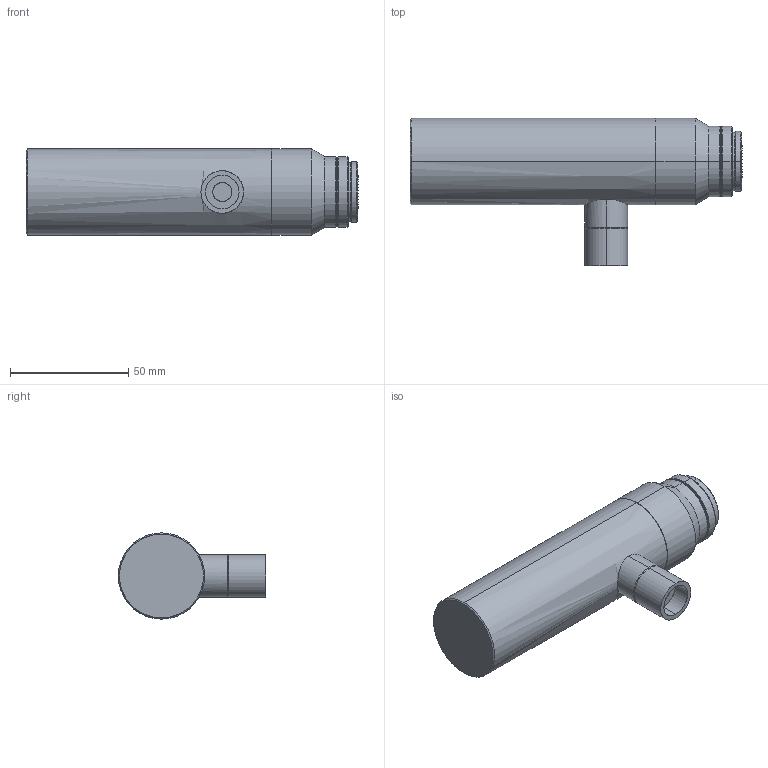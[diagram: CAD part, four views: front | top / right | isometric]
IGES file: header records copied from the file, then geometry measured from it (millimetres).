
Start section: SolidWorks IGES file using analytic representation for surfaces
Bounding box: 140.4 x 62.3 x 36.5 mm (x, y, z)
Surface area: 19741.4 mm2 (no closed solid volume)
Topology: 0 solids, 0 shells, 57 faces, 942 edges, 942 vertices
Faces by surface type: revolution 48, bspline 9
